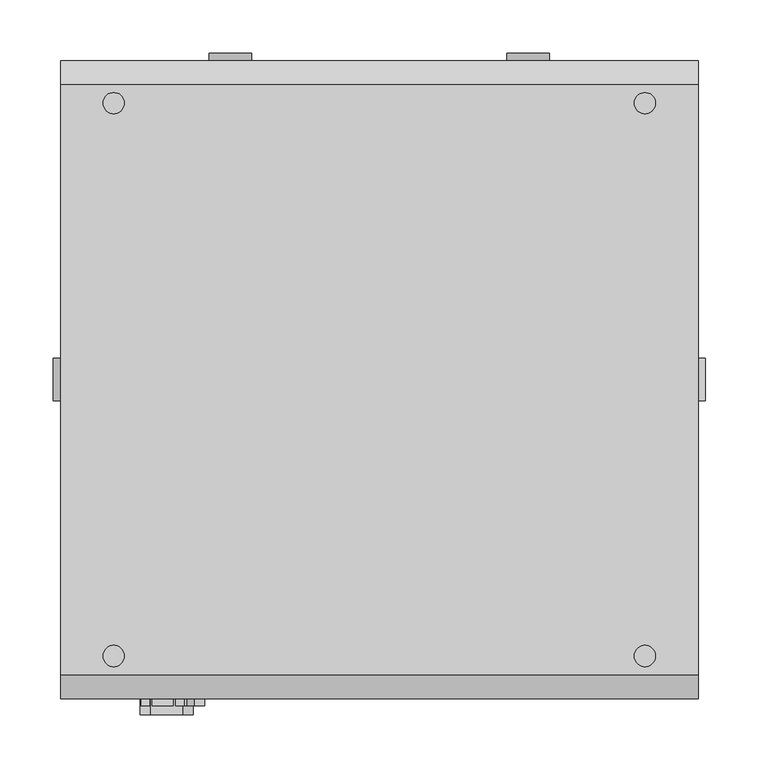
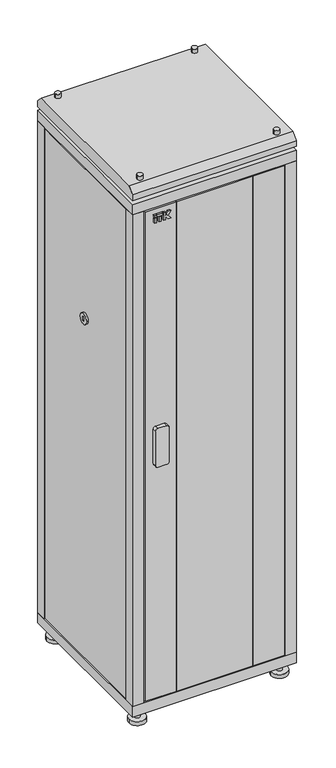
"""IFC4 building model written with IfcOpenShell, lengths in millimetres: proxy geometry, Шкафы ITK серия N_05 : LN05-42U66-G."""

from ifc_helpers import new_model, si_unit, point, frame, frame_2d, origin, origin_with_axes, place, context, project, spatial, polyline, circle_curve, trimmed, segment, composite_curve, outline, extrude, faceted_brep, source, transform, mapped, element, save
from ifc_brep_helpers import plane_surface, cylinder_surface, advanced_brep


def electrical_fixtures_48f60a17(model_context):
    return source(origin(), model_context, "Body", "SolidModel", [
        extrude(outline(polyline([(-215.9746193, -307.0), (-224.197592, -307.0), (-224.197592, -300.0), (-215.9746193, -300.0), (-215.9746193, -307.0)])), frame((0.0, 0.0, 1935.0), z_axis=(0.0, 0.0, 1.0), x_axis=(1.0, 0.0, 0.0)), (0.0, 0.0, 1.0), 18.8087618),
        extrude(outline(polyline([(-199.9605777, -307.0), (-207.7053315, -307.0), (-207.7053315, -300.0), (-199.9605777, -300.0), (-199.9605777, -307.0)])), frame((0.0, 0.0, 1935.0), z_axis=(0.0, 0.0, 1.0), x_axis=(1.0, 0.0, 0.0)), (0.0, 0.0, 1.0), 18.8087618),
        extrude(outline(polyline([(-215.9746193, -307.0), (-224.197592, -307.0), (-224.197592, -300.0), (-215.9746193, -300.0), (-215.9746193, -307.0)])), frame((0.0, 0.0, 1956.4305892), z_axis=(0.0, 0.0, 1.0), x_axis=(1.0, 0.0, 0.0)), (0.0, 0.0, 1.0), 7.9794747),
        extrude(outline(polyline([(1935.0, -191.5184175), (1935.0, -183.7669278), (1946.0271455, -183.7669278), (1946.0271455, -180.8031229), (1935.0, -173.6420108), (1935.0, -164.197592), (1949.7278745, -174.8980192), (1964.410064, -164.197592), (1964.410064, -173.6420108), (1953.3829184, -180.8031229), (1953.3829184, -183.7669278), (1964.410064, -183.7669278), (1964.410064, -191.5184175), (1935.0, -191.5184175)])), frame((0.0, -307.0, 0.0), z_axis=(0.0, 1.0, 0.0), x_axis=(0.0, 0.0, 1.0)), (0.0, 0.0, 1.0), 7.0),
        extrude(outline(polyline([(-194.0851324, -307.0), (-213.5807768, -307.0), (-213.5807768, -300.0), (-194.0851324, -300.0), (-194.0851324, -307.0)])), frame((0.0, 0.0, 1956.4305892), z_axis=(0.0, 0.0, 1.0), x_axis=(1.0, 0.0, 0.0)), (0.0, 0.0, 1.0), 7.9794747),
        extrude(outline(composite_curve([segment(polyline([(1145.0, -185.0), (1145.0, -215.0)]), True, "CONTINUOUS"), segment(trimmed(circle_curve(frame_2d((1135.0, -215.0)), 10.0), [point((1145.0, -215.0))], [point((1135.0, -225.0))], False, "CARTESIAN"), True, "CONTINUOUS"), segment(polyline([(1135.0, -225.0), (1005.0, -225.0)]), True, "CONTINUOUS"), segment(trimmed(circle_curve(frame_2d((1005.0, -215.0)), 10.0), [point((1005.0, -225.0))], [point((995.0, -215.0))], False, "CARTESIAN"), True, "CONTINUOUS"), segment(polyline([(995.0, -215.0), (995.0, -185.0)]), True, "CONTINUOUS"), segment(trimmed(circle_curve(frame_2d((1005.0, -185.0)), 10.0), [point((995.0, -185.0))], [point((1005.0, -175.0))], False, "CARTESIAN"), True, "CONTINUOUS"), segment(polyline([(1005.0, -175.0), (1135.0, -175.0)]), True, "CONTINUOUS"), segment(trimmed(circle_curve(frame_2d((1135.0, -185.0)), 10.0), [point((1135.0, -175.0))], [point((1145.0, -185.0))], False, "CARTESIAN"), True, "CONTINUOUS")], self_intersect=False)), frame((0.0, -315.0, 0.0), z_axis=(0.0, 1.0, 0.0), x_axis=(0.0, 0.0, 1.0)), (0.0, 0.0, 1.0), 15.0),
        extrude(outline(polyline([(140.0, -280.0), (140.0, -300.0), (-140.0, -300.0), (-140.0, -280.0), (140.0, -280.0)])), frame((0.0, 0.0, 95.0), z_axis=(0.0, 0.0, 1.0), x_axis=(1.0, 0.0, 0.0)), (0.0, 0.0, 1.0), 1890.0),
        extrude(outline(polyline([(255.0, -280.0), (255.0, -300.0), (140.0, -300.0), (140.0, -280.0), (235.0, -280.0), (235.0, -265.0), (245.0, -265.0), (245.0, -280.0), (255.0, -280.0)])), frame((0.0, 0.0, 95.0), z_axis=(0.0, 0.0, 1.0), x_axis=(1.0, 0.0, 0.0)), (0.0, 0.0, 1.0), 1890.0),
        extrude(outline(polyline([(-140.0, -300.0), (-255.0, -300.0), (-255.0, -280.0), (-245.0, -280.0), (-245.0, -265.0), (-235.0, -265.0), (-235.0, -280.0), (-140.0, -280.0), (-140.0, -300.0)])), frame((0.0, 0.0, 95.0), z_axis=(0.0, 0.0, 1.0), x_axis=(1.0, 0.0, 0.0)), (0.0, 0.0, 1.0), 1890.0),
        extrude(outline(composite_curve([segment(trimmed(circle_curve(frame_2d((-260.0, 260.0)), 10.0), [point((-250.0, 260.0))], [point((-270.0, 260.0))], False, "CARTESIAN"), True, "CONTINUOUS"), segment(trimmed(circle_curve(frame_2d((-260.0, 260.0)), 10.0), [point((-270.0, 260.0))], [point((-250.0, 260.0))], False, "CARTESIAN"), True, "CONTINUOUS")], self_intersect=False)), frame((0.0, 0.0, 15.0), z_axis=(0.0, 0.0, 1.0), x_axis=(1.0, 0.0, 0.0)), (0.0, 0.0, 1.0), 35.0),
        extrude(outline(composite_curve([segment(trimmed(circle_curve(frame_2d((260.0, 260.0)), 10.0), [point((270.0, 260.0))], [point((250.0, 260.0))], False, "CARTESIAN"), True, "CONTINUOUS"), segment(trimmed(circle_curve(frame_2d((260.0, 260.0)), 10.0), [point((250.0, 260.0))], [point((270.0, 260.0))], False, "CARTESIAN"), True, "CONTINUOUS")], self_intersect=False)), frame((0.0, 0.0, 15.0), z_axis=(0.0, 0.0, 1.0), x_axis=(1.0, 0.0, 0.0)), (0.0, 0.0, 1.0), 35.0),
        extrude(outline(composite_curve([segment(trimmed(circle_curve(frame_2d((-260.0, -260.0)), 10.0), [point((-250.0, -260.0))], [point((-270.0, -260.0))], False, "CARTESIAN"), True, "CONTINUOUS"), segment(trimmed(circle_curve(frame_2d((-260.0, -260.0)), 10.0), [point((-270.0, -260.0))], [point((-250.0, -260.0))], False, "CARTESIAN"), True, "CONTINUOUS")], self_intersect=False)), frame((0.0, 0.0, 15.0), z_axis=(0.0, 0.0, 1.0), x_axis=(1.0, 0.0, 0.0)), (0.0, 0.0, 1.0), 35.0),
        extrude(outline(composite_curve([segment(trimmed(circle_curve(frame_2d((260.0, -260.0)), 10.0), [point((270.0, -260.0))], [point((250.0, -260.0))], False, "CARTESIAN"), True, "CONTINUOUS"), segment(trimmed(circle_curve(frame_2d((260.0, -260.0)), 10.0), [point((250.0, -260.0))], [point((270.0, -260.0))], False, "CARTESIAN"), True, "CONTINUOUS")], self_intersect=False)), frame((0.0, 0.0, 15.0), z_axis=(0.0, 0.0, 1.0), x_axis=(1.0, 0.0, 0.0)), (0.0, 0.0, 1.0), 35.0),
        extrude(outline(composite_curve([segment(trimmed(circle_curve(frame_2d((-260.0, 260.0)), 30.0), [point((-230.0, 260.0))], [point((-290.0, 260.0))], False, "CARTESIAN"), True, "CONTINUOUS"), segment(trimmed(circle_curve(frame_2d((-260.0, 260.0)), 30.0), [point((-290.0, 260.0))], [point((-230.0, 260.0))], False, "CARTESIAN"), True, "CONTINUOUS")], self_intersect=False)), origin_with_axes(), (0.0, 0.0, 1.0), 15.0),
        extrude(outline(composite_curve([segment(trimmed(circle_curve(frame_2d((260.0, 260.0)), 30.0), [point((290.0, 260.0))], [point((230.0, 260.0))], False, "CARTESIAN"), True, "CONTINUOUS"), segment(trimmed(circle_curve(frame_2d((260.0, 260.0)), 30.0), [point((230.0, 260.0))], [point((290.0, 260.0))], False, "CARTESIAN"), True, "CONTINUOUS")], self_intersect=False)), origin_with_axes(), (0.0, 0.0, 1.0), 15.0),
        extrude(outline(composite_curve([segment(trimmed(circle_curve(frame_2d((-260.0, -260.0)), 30.0), [point((-230.0, -260.0))], [point((-290.0, -260.0))], False, "CARTESIAN"), True, "CONTINUOUS"), segment(trimmed(circle_curve(frame_2d((-260.0, -260.0)), 30.0), [point((-290.0, -260.0))], [point((-230.0, -260.0))], False, "CARTESIAN"), True, "CONTINUOUS")], self_intersect=False)), origin_with_axes(), (0.0, 0.0, 1.0), 15.0),
        extrude(outline(composite_curve([segment(trimmed(circle_curve(frame_2d((260.0, -260.0)), 30.0), [point((290.0, -260.0))], [point((230.0, -260.0))], False, "CARTESIAN"), True, "CONTINUOUS"), segment(trimmed(circle_curve(frame_2d((260.0, -260.0)), 30.0), [point((230.0, -260.0))], [point((290.0, -260.0))], False, "CARTESIAN"), True, "CONTINUOUS")], self_intersect=False)), origin_with_axes(), (0.0, 0.0, 1.0), 15.0),
        advanced_brep(
        [(260.0, 260.0, 2105.0), (240.0, 260.0, 2105.0), (260.0, -260.0, 2105.0), (240.0, -260.0, 2105.0), (-240.0, 260.0, 2105.0), (-260.0, 260.0, 2105.0), (-240.0, -260.0, 2105.0), (-260.0, -260.0, 2105.0), (260.0, 260.0, 2030.0), (240.0, 260.0, 2030.0), (260.0, -260.0, 2030.0), (240.0, -260.0, 2030.0), (-240.0, 260.0, 2030.0), (-260.0, 260.0, 2030.0), (-240.0, -260.0, 2030.0), (-260.0, -260.0, 2030.0), (260.0, 260.0, 2090.0), (240.0, 260.0, 2090.0), (240.0, 260.0, 2045.0), (260.0, 260.0, 2045.0), (260.0, -260.0, 2090.0), (240.0, -260.0, 2090.0), (240.0, -260.0, 2045.0), (260.0, -260.0, 2045.0), (-240.0, 260.0, 2090.0), (-260.0, 260.0, 2090.0), (-260.0, 260.0, 2045.0), (-240.0, 260.0, 2045.0), (-240.0, -260.0, 2090.0), (-260.0, -260.0, 2090.0), (-260.0, -260.0, 2045.0), (-240.0, -260.0, 2045.0), (300.0, 277.5, 2090.0), (300.0, -277.5, 2090.0), (300.0, -300.0, 2067.5), (300.0, -300.0, 2045.0), (300.0, 300.0, 2045.0), (300.0, 300.0, 2067.5), (-300.0, 277.5, 2090.0), (-300.0, 300.0, 2067.5), (-300.0, 300.0, 2045.0), (-300.0, -300.0, 2045.0), (-300.0, -300.0, 2067.5), (-300.0, -277.5, 2090.0)],
        [
            (0, 1, circle_curve(frame((250.0, 260.0, 2105.0), z_axis=(0.0, 0.0, 1.0), x_axis=(-1.0, 0.0, 0.0)), 10.0)),
            (1, 0, circle_curve(frame((250.0, 260.0, 2105.0), z_axis=(0.0, 0.0, 1.0), x_axis=(-1.0, 0.0, 0.0)), 10.0)),
            (2, 3, circle_curve(frame((250.0, -260.0, 2105.0), z_axis=(0.0, 0.0, 1.0), x_axis=(-1.0, 0.0, 0.0)), 10.0)),
            (3, 2, circle_curve(frame((250.0, -260.0, 2105.0), z_axis=(0.0, 0.0, 1.0), x_axis=(-1.0, 0.0, 0.0)), 10.0)),
            (4, 5, circle_curve(frame((-250.0, 260.0, 2105.0), z_axis=(0.0, 0.0, 1.0), x_axis=(-1.0, 0.0, 0.0)), 10.0)),
            (5, 4, circle_curve(frame((-250.0, 260.0, 2105.0), z_axis=(0.0, 0.0, 1.0), x_axis=(-1.0, 0.0, 0.0)), 10.0)),
            (6, 7, circle_curve(frame((-250.0, -260.0, 2105.0), z_axis=(0.0, 0.0, 1.0), x_axis=(-1.0, 0.0, 0.0)), 10.0)),
            (7, 6, circle_curve(frame((-250.0, -260.0, 2105.0), z_axis=(0.0, 0.0, 1.0), x_axis=(-1.0, 0.0, 0.0)), 10.0)),
            (8, 9, circle_curve(frame((250.0, 260.0, 2030.0), z_axis=(0.0, 0.0, -1.0), x_axis=(-1.0, 0.0, 0.0)), 10.0)),
            (9, 8, circle_curve(frame((250.0, 260.0, 2030.0), z_axis=(0.0, 0.0, -1.0), x_axis=(-1.0, 0.0, 0.0)), 10.0)),
            (10, 11, circle_curve(frame((250.0, -260.0, 2030.0), z_axis=(0.0, 0.0, -1.0), x_axis=(-1.0, 0.0, 0.0)), 10.0)),
            (11, 10, circle_curve(frame((250.0, -260.0, 2030.0), z_axis=(0.0, 0.0, -1.0), x_axis=(-1.0, 0.0, 0.0)), 10.0)),
            (12, 13, circle_curve(frame((-250.0, 260.0, 2030.0), z_axis=(0.0, 0.0, -1.0), x_axis=(-1.0, 0.0, 0.0)), 10.0)),
            (13, 12, circle_curve(frame((-250.0, 260.0, 2030.0), z_axis=(0.0, 0.0, -1.0), x_axis=(-1.0, 0.0, 0.0)), 10.0)),
            (14, 15, circle_curve(frame((-250.0, -260.0, 2030.0), z_axis=(0.0, 0.0, -1.0), x_axis=(-1.0, 0.0, 0.0)), 10.0)),
            (15, 14, circle_curve(frame((-250.0, -260.0, 2030.0), z_axis=(0.0, 0.0, -1.0), x_axis=(-1.0, 0.0, 0.0)), 10.0)),
            (0, 16),
            (16, 17, circle_curve(frame((250.0, 260.0, 2090.0), z_axis=(0.0, 0.0, 1.0), x_axis=(-1.0, 0.0, 0.0)), 10.0)),
            (17, 1),
            (9, 18),
            (18, 19, circle_curve(frame((250.0, 260.0, 2045.0), z_axis=(0.0, 0.0, -1.0), x_axis=(-1.0, 0.0, 0.0)), 10.0)),
            (19, 8),
            (17, 16, circle_curve(frame((250.0, 260.0, 2090.0), z_axis=(0.0, 0.0, 1.0), x_axis=(-1.0, 0.0, 0.0)), 10.0)),
            (19, 18, circle_curve(frame((250.0, 260.0, 2045.0), z_axis=(0.0, 0.0, -1.0), x_axis=(-1.0, 0.0, 0.0)), 10.0)),
            (2, 20),
            (20, 21, circle_curve(frame((250.0, -260.0, 2090.0), z_axis=(0.0, 0.0, 1.0), x_axis=(-1.0, 0.0, 0.0)), 10.0)),
            (21, 3),
            (11, 22),
            (22, 23, circle_curve(frame((250.0, -260.0, 2045.0), z_axis=(0.0, 0.0, -1.0), x_axis=(-1.0, 0.0, 0.0)), 10.0)),
            (23, 10),
            (21, 20, circle_curve(frame((250.0, -260.0, 2090.0), z_axis=(0.0, 0.0, 1.0), x_axis=(-1.0, 0.0, 0.0)), 10.0)),
            (23, 22, circle_curve(frame((250.0, -260.0, 2045.0), z_axis=(0.0, 0.0, -1.0), x_axis=(-1.0, 0.0, 0.0)), 10.0)),
            (4, 24),
            (24, 25, circle_curve(frame((-250.0, 260.0, 2090.0), z_axis=(0.0, 0.0, 1.0), x_axis=(-1.0, 0.0, 0.0)), 10.0)),
            (25, 5),
            (13, 26),
            (26, 27, circle_curve(frame((-250.0, 260.0, 2045.0), z_axis=(0.0, 0.0, -1.0), x_axis=(-1.0, 0.0, 0.0)), 10.0)),
            (27, 12),
            (25, 24, circle_curve(frame((-250.0, 260.0, 2090.0), z_axis=(0.0, 0.0, 1.0), x_axis=(-1.0, 0.0, 0.0)), 10.0)),
            (27, 26, circle_curve(frame((-250.0, 260.0, 2045.0), z_axis=(0.0, 0.0, -1.0), x_axis=(-1.0, 0.0, 0.0)), 10.0)),
            (6, 28),
            (28, 29, circle_curve(frame((-250.0, -260.0, 2090.0), z_axis=(0.0, 0.0, 1.0), x_axis=(-1.0, 0.0, 0.0)), 10.0)),
            (29, 7),
            (15, 30),
            (30, 31, circle_curve(frame((-250.0, -260.0, 2045.0), z_axis=(0.0, 0.0, -1.0), x_axis=(-1.0, 0.0, 0.0)), 10.0)),
            (31, 14),
            (29, 28, circle_curve(frame((-250.0, -260.0, 2090.0), z_axis=(0.0, 0.0, 1.0), x_axis=(-1.0, 0.0, 0.0)), 10.0)),
            (31, 30, circle_curve(frame((-250.0, -260.0, 2045.0), z_axis=(0.0, 0.0, -1.0), x_axis=(-1.0, 0.0, 0.0)), 10.0)),
            (32, 33),
            (33, 34),
            (34, 35),
            (35, 36),
            (36, 37),
            (37, 32),
            (38, 39),
            (39, 40),
            (40, 41),
            (41, 42),
            (42, 43),
            (43, 38),
            (32, 38),
            (43, 33),
            (42, 34),
            (41, 35),
            (40, 36),
            (39, 37),
        ],
        [
            plane_surface(frame((240.0, 260.0, 2105.0), z_axis=(0.0, 0.0, 1.0), x_axis=(0.0, -1.0, 0.0))),
            plane_surface(frame((240.0, 260.0, 2030.0), z_axis=(0.0, 0.0, -1.0), x_axis=(0.0, 1.0, 0.0))),
            cylinder_surface(frame((250.0, 260.0, 2030.0), z_axis=(0.0, 0.0, 1.0), x_axis=(-1.0, 0.0, 0.0)), 10.0),
            cylinder_surface(frame((250.0, -260.0, 1710.0), z_axis=(0.0, 0.0, 1.0), x_axis=(-1.0, 0.0, 0.0)), 10.0),
            cylinder_surface(frame((-250.0, 260.0, 1710.0), z_axis=(0.0, 0.0, 1.0), x_axis=(-1.0, 0.0, 0.0)), 10.0),
            cylinder_surface(frame((-250.0, -260.0, 1710.0), z_axis=(0.0, 0.0, 1.0), x_axis=(-1.0, 0.0, 0.0)), 10.0),
            plane_surface(frame((300.0, -277.5, 2090.0), z_axis=(1.0, 0.0, 0.0), x_axis=(0.0, -1.0, 0.0))),
            plane_surface(frame((-300.0, -277.5, 2090.0), z_axis=(-1.0, 0.0, 0.0), x_axis=(0.0, 1.0, 0.0))),
            plane_surface(frame((300.0, 277.5, 2090.0), z_axis=(0.0, 0.0, 1.0), x_axis=(-1.0, 0.0, 0.0))),
            plane_surface(frame((300.0, -277.5, 2090.0), z_axis=(0.0, -0.7071067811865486, 0.7071067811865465), x_axis=(-1.0, 0.0, 0.0))),
            plane_surface(frame((300.0, -300.0, 2067.5), z_axis=(0.0, -1.0, 0.0), x_axis=(-1.0, 0.0, 0.0))),
            plane_surface(frame((300.0, -300.0, 2045.0), z_axis=(0.0, 0.0, -1.0), x_axis=(-1.0, 0.0, 0.0))),
            plane_surface(frame((300.0, 300.0, 2045.0), z_axis=(0.0, 1.0, 0.0), x_axis=(-1.0, 0.0, 0.0))),
            plane_surface(frame((300.0, 300.0, 2067.5), z_axis=(0.0, 0.7071067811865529, 0.7071067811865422), x_axis=(-1.0, 0.0, 0.0))),
        ],
        [
            (0, [[1, 2]]),
            (0, [[3, 4]]),
            (0, [[5, 6]]),
            (0, [[7, 8]]),
            (1, [[9, 10]]),
            (1, [[11, 12]]),
            (1, [[13, 14]]),
            (1, [[15, 16]]),
            (2, [[-1, 17, 18, 19]]),
            (2, [[-10, 20, 21, 22]]),
            (2, [[-2, -19, 23, -17]]),
            (2, [[-9, -22, 24, -20]]),
            (3, [[-3, 25, 26, 27]]),
            (3, [[-12, 28, 29, 30]]),
            (3, [[-4, -27, 31, -25]]),
            (3, [[-11, -30, 32, -28]]),
            (4, [[-5, 33, 34, 35]]),
            (4, [[-14, 36, 37, 38]]),
            (4, [[-6, -35, 39, -33]]),
            (4, [[-13, -38, 40, -36]]),
            (5, [[-7, 41, 42, 43]]),
            (5, [[-16, 44, 45, 46]]),
            (5, [[-8, -43, 47, -41]]),
            (5, [[-15, -46, 48, -44]]),
            (6, [[49, 50, 51, 52, 53, 54]]),
            (7, [[55, 56, 57, 58, 59, 60]]),
            (8, [[-49, 61, -60, 62], [-18, -23], [-26, -31], [-34, -39], [-42, -47]]),
            (9, [[-50, -62, -59, 63]]),
            (10, [[-51, -63, -58, 64]]),
            (11, [[-52, -64, -57, 65], [-21, -24], [-29, -32], [-37, -40], [-45, -48]]),
            (12, [[-53, -65, -56, 66]]),
            (13, [[-54, -66, -55, -61]]),
        ],
    ),
        extrude(outline(polyline([(260.0, 260.0), (260.0, 245.0), (290.0, 245.0), (290.0, -245.0), (260.0, -245.0), (260.0, -260.0), (245.0, -260.0), (245.0, -280.0), (-245.0, -280.0), (-245.0, -260.0), (-260.0, -260.0), (-260.0, -245.0), (-290.0, -245.0), (-290.0, 245.0), (-260.0, 245.0), (-260.0, 260.0), (-245.0, 260.0), (-245.0, 290.0), (245.0, 290.0), (245.0, 260.0), (260.0, 260.0)])), frame((0.0, 0.0, 90.0), z_axis=(0.0, 0.0, 1.0), x_axis=(1.0, 0.0, 0.0)), (0.0, 0.0, 1.0), 5.0),
        extrude(outline(polyline([(260.0, 260.0), (260.0, 245.0), (290.0, 245.0), (290.0, -245.0), (260.0, -245.0), (260.0, -260.0), (245.0, -260.0), (245.0, -280.0), (-245.0, -280.0), (-245.0, -260.0), (-260.0, -260.0), (-260.0, -245.0), (-290.0, -245.0), (-290.0, 245.0), (-260.0, 245.0), (-260.0, 260.0), (-245.0, 260.0), (-245.0, 290.0), (245.0, 290.0), (245.0, 260.0), (260.0, 260.0)])), frame((0.0, 0.0, 1985.0), z_axis=(0.0, 0.0, 1.0), x_axis=(1.0, 0.0, 0.0)), (0.0, 0.0, 1.0), 5.0),
        extrude(outline(polyline([(300.0, -300.0), (-300.0, -300.0), (-300.0, 300.0), (300.0, 300.0), (300.0, -300.0)])), frame((0.0, 0.0, 1990.0), z_axis=(0.0, 0.0, 1.0), x_axis=(1.0, 0.0, 0.0)), (0.0, 0.0, 1.0), 40.0),
        extrude(outline(polyline([(300.0, -300.0), (-300.0, -300.0), (-300.0, 300.0), (300.0, 300.0), (300.0, -300.0)])), frame((0.0, 0.0, 50.0), z_axis=(0.0, 0.0, 1.0), x_axis=(1.0, 0.0, 0.0)), (0.0, 0.0, 1.0), 40.0),
        extrude(outline(composite_curve([segment(trimmed(circle_curve(frame_2d((1040.0, 140.0)), 20.0), [point((1040.0, 160.0))], [point((1040.0, 120.0))], False, "CARTESIAN"), True, "CONTINUOUS"), segment(trimmed(circle_curve(frame_2d((1040.0, 140.0)), 20.0), [point((1040.0, 120.0))], [point((1040.0, 160.0))], False, "CARTESIAN"), True, "CONTINUOUS")], self_intersect=False), holes=[polyline([(1031.7814397, 137.0), (1048.2185603, 137.0), (1048.2185603, 143.0), (1031.7814397, 143.0), (1031.7814397, 137.0)])]), frame((0.0, 300.0, 0.0), z_axis=(0.0, 1.0, 0.0), x_axis=(0.0, 0.0, 1.0)), (0.0, 0.0, 1.0), 7.0),
        extrude(outline(composite_curve([segment(trimmed(circle_curve(frame_2d((1040.0, -140.0)), 20.0), [point((1040.0, -120.0))], [point((1040.0, -160.0))], False, "CARTESIAN"), True, "CONTINUOUS"), segment(trimmed(circle_curve(frame_2d((1040.0, -140.0)), 20.0), [point((1040.0, -160.0))], [point((1040.0, -120.0))], False, "CARTESIAN"), True, "CONTINUOUS")], self_intersect=False), holes=[polyline([(1031.7814397, -143.0), (1048.2185603, -143.0), (1048.2185603, -137.0), (1031.7814397, -137.0), (1031.7814397, -143.0)])]), frame((0.0, 300.0, 0.0), z_axis=(0.0, 1.0, 0.0), x_axis=(0.0, 0.0, 1.0)), (0.0, 0.0, 1.0), 7.0),
        faceted_brep([(255.0, 300.0, 1985.0), (-255.0, 300.0, 1985.0), (-255.0, 270.0, 1985.0), (-245.0, 270.0, 1985.0), (-245.0, 290.0, 1985.0), (245.0, 290.0, 1985.0), (245.0, 270.0, 1985.0), (255.0, 270.0, 1985.0), (255.0, 300.0, 95.0), (255.0, 270.0, 95.0), (245.0, 270.0, 95.0), (245.0, 290.0, 95.0), (-245.0, 290.0, 95.0), (-245.0, 270.0, 95.0), (-255.0, 270.0, 95.0), (-255.0, 300.0, 95.0), (255.0, 300.0, 1812.5265979), (-255.0, 300.0, 1812.5265979), (175.0, 300.0, 1860.0), (175.0, 300.0, 1940.0), (-175.0, 300.0, 1940.0), (-175.0, 300.0, 1860.0), (-255.0, 300.0, 267.4734021), (255.0, 300.0, 267.4734021), (175.0, 300.0, 220.0), (-175.0, 300.0, 220.0), (-175.0, 300.0, 140.0), (175.0, 300.0, 140.0), (255.0, 300.0, 1807.4734021), (255.0, 300.0, 272.5265979), (-255.0, 300.0, 272.5265979), (-255.0, 300.0, 1807.4734021), (-170.0, 300.0, 215.0), (170.0, 300.0, 215.0), (170.0, 300.0, 145.0), (-170.0, 300.0, 145.0), (-170.0, 300.0, 1865.0), (-170.0, 300.0, 1935.0), (170.0, 300.0, 1935.0), (170.0, 300.0, 1865.0), (-255.0, 293.0, 1812.5265979), (-255.0, 293.0, 1807.4734021), (-255.0, 293.0, 272.5265979), (-255.0, 293.0, 267.4734021), (255.0, 293.0, 267.4734021), (255.0, 293.0, 272.5265979), (255.0, 293.0, 1807.4734021), (255.0, 293.0, 1812.5265979), (175.0, 293.0, 220.0), (175.0, 293.0, 140.0), (-175.0, 293.0, 140.0), (-175.0, 293.0, 220.0), (-170.0, 293.0, 215.0), (-170.0, 293.0, 145.0), (170.0, 293.0, 145.0), (170.0, 293.0, 215.0), (175.0, 293.0, 1860.0), (-175.0, 293.0, 1860.0), (-175.0, 293.0, 1940.0), (175.0, 293.0, 1940.0), (-170.0, 293.0, 1865.0), (170.0, 293.0, 1865.0), (170.0, 293.0, 1935.0), (-170.0, 293.0, 1935.0)], [[[0, 1, 2, 3, 4, 5, 6, 7]], [[8, 9, 10, 11, 12, 13, 14, 15]], [[1, 0, 16, 17], [18, 19, 20, 21]], [[8, 15, 22, 23], [24, 25, 26, 27]], [[28, 29, 30, 31]], [[32, 33, 34, 35]], [[36, 37, 38, 39]], [[2, 1, 17, 40, 41, 31, 30, 42, 43, 22, 15, 14]], [[3, 2, 14, 13]], [[4, 3, 13, 12]], [[5, 4, 12, 11]], [[6, 5, 11, 10]], [[7, 6, 10, 9]], [[0, 7, 9, 8, 23, 44, 45, 29, 28, 46, 47, 16]], [[44, 43, 42, 45]], [[48, 49, 50, 51], [52, 53, 54, 55]], [[46, 41, 40, 47]], [[56, 57, 58, 59], [60, 61, 62, 63]], [[45, 42, 30, 29]], [[43, 44, 23, 22]], [[48, 51, 25, 24]], [[51, 50, 26, 25]], [[50, 49, 27, 26]], [[49, 48, 24, 27]], [[52, 55, 33, 32]], [[55, 54, 34, 33]], [[54, 53, 35, 34]], [[53, 52, 32, 35]], [[47, 40, 17, 16]], [[41, 46, 28, 31]], [[56, 59, 19, 18]], [[59, 58, 20, 19]], [[58, 57, 21, 20]], [[57, 56, 18, 21]], [[60, 63, 37, 36]], [[63, 62, 38, 37]], [[62, 61, 39, 38]], [[61, 60, 36, 39]]]),
        extrude(outline(composite_curve([segment(trimmed(circle_curve(frame_2d((0.0, 1410.0)), 20.0), [point((-20.0, 1410.0))], [point((20.0, 1410.0))], False, "CARTESIAN"), True, "CONTINUOUS"), segment(trimmed(circle_curve(frame_2d((0.0, 1410.0)), 20.0), [point((20.0, 1410.0))], [point((-20.0, 1410.0))], False, "CARTESIAN"), True, "CONTINUOUS")], self_intersect=False), holes=[polyline([(3.0, 1401.7814397), (3.0, 1418.2185603), (-3.0, 1418.2185603), (-3.0, 1401.7814397), (3.0, 1401.7814397)])]), frame((300.0, 0.0, 0.0), z_axis=(1.0, 0.0, 0.0), x_axis=(0.0, 1.0, 0.0)), (0.0, 0.0, 1.0), 7.0),
        extrude(outline(composite_curve([segment(trimmed(circle_curve(frame_2d((0.0, 1410.0)), 20.0), [point((20.0, 1410.0))], [point((-20.0, 1410.0))], False, "CARTESIAN"), True, "CONTINUOUS"), segment(trimmed(circle_curve(frame_2d((0.0, 1410.0)), 20.0), [point((-20.0, 1410.0))], [point((20.0, 1410.0))], False, "CARTESIAN"), True, "CONTINUOUS")], self_intersect=False), holes=[polyline([(-3.0, 1401.7814397), (3.0, 1401.7814397), (3.0, 1418.2185603), (-3.0, 1418.2185603), (-3.0, 1401.7814397)])]), frame((-307.0, 0.0, 0.0), z_axis=(1.0, 0.0, 0.0), x_axis=(0.0, 1.0, 0.0)), (0.0, 0.0, 1.0), 7.0),
        extrude(outline(polyline([(-270.0, 255.0), (-270.0, 245.0), (-289.9803177, 245.0), (-289.9803177, -245.0), (-269.9803177, -245.0), (-269.9803177, -255.0), (-300.0, -255.0), (-300.0, 255.0), (-270.0, 255.0)])), frame((0.0, 0.0, 95.0), z_axis=(0.0, 0.0, 1.0), x_axis=(1.0, 0.0, 0.0)), (0.0, 0.0, 1.0), 1890.0),
        extrude(outline(polyline([(269.9803177, 255.0), (300.0, 255.0), (300.0, -255.0), (269.9803177, -255.0), (269.9803177, -245.0), (289.9803177, -245.0), (289.9803177, 245.0), (269.9803177, 245.0), (269.9803177, 255.0)])), frame((0.0, 0.0, 95.0), z_axis=(0.0, 0.0, 1.0), x_axis=(1.0, 0.0, 0.0)), (0.0, 0.0, 1.0), 1890.0),
        extrude(outline(polyline([(-270.0, -260.0), (-270.0, -245.0), (-260.0, -245.0), (-260.0, -260.0), (-245.0, -260.0), (-245.0, -280.0), (-260.0, -280.0), (-260.0, -300.0), (-300.0, -300.0), (-300.0, -260.0), (-270.0, -260.0)]), holes=[polyline([(-267.0, -263.0), (-297.0, -263.0), (-297.0, -297.0), (-263.0, -297.0), (-263.0, -277.0), (-248.0, -277.0), (-248.0, -263.0), (-263.0, -263.0), (-263.0, -248.0), (-267.0, -248.0), (-267.0, -263.0)])]), frame((0.0, 0.0, 90.0), z_axis=(0.0, 0.0, 1.0), x_axis=(1.0, 0.0, 0.0)), (0.0, 0.0, 1.0), 1900.0),
        extrude(outline(polyline([(270.0, -260.0), (300.0, -260.0), (300.0, -300.0), (260.0, -300.0), (260.0, -280.0), (245.0, -280.0), (245.0, -260.0), (260.0, -260.0), (260.0, -245.0), (270.0, -245.0), (270.0, -260.0)]), holes=[polyline([(297.0, -297.0), (297.0, -263.0), (267.0, -263.0), (267.0, -248.0), (263.0, -248.0), (263.0, -263.0), (248.0, -263.0), (248.0, -277.0), (263.0, -277.0), (263.0, -297.0), (297.0, -297.0)])]), frame((0.0, 0.0, 90.0), z_axis=(0.0, 0.0, 1.0), x_axis=(1.0, 0.0, 0.0)), (0.0, 0.0, 1.0), 1900.0),
        extrude(outline(polyline([(270.0, 260.0), (270.0, 245.0), (260.0, 245.0), (260.0, 260.0), (245.0, 260.0), (245.0, 270.0), (260.0, 270.0), (260.0, 300.0), (300.0, 300.0), (300.0, 260.0), (270.0, 260.0)]), holes=[polyline([(297.0, 263.0), (297.0, 297.0), (263.0, 297.0), (263.0, 267.0), (248.0, 267.0), (248.0, 263.0), (263.0, 263.0), (263.0, 248.0), (267.0, 248.0), (267.0, 263.0), (297.0, 263.0)])]), frame((0.0, 0.0, 90.0), z_axis=(0.0, 0.0, 1.0), x_axis=(1.0, 0.0, 0.0)), (0.0, 0.0, 1.0), 1900.0),
        extrude(outline(polyline([(-270.0, 260.0), (-300.0, 260.0), (-300.0, 300.0), (-260.0, 300.0), (-260.0, 270.0), (-245.0, 270.0), (-245.0, 260.0), (-260.0, 260.0), (-260.0, 245.0), (-270.0, 245.0), (-270.0, 260.0)]), holes=[polyline([(-297.0, 297.0), (-297.0, 263.0), (-267.0, 263.0), (-267.0, 248.0), (-263.0, 248.0), (-263.0, 263.0), (-248.0, 263.0), (-248.0, 267.0), (-263.0, 267.0), (-263.0, 297.0), (-297.0, 297.0)])]), frame((0.0, 0.0, 90.0), z_axis=(0.0, 0.0, 1.0), x_axis=(1.0, 0.0, 0.0)), (0.0, 0.0, 1.0), 1900.0),
    ])


if __name__ == "__main__":
    model = new_model("IFC4")
    model_context = context("Model", 3, world=origin())
    ifc_project = project(units=[si_unit("LENGTHUNIT", "METRE", prefix="MILLI")], contexts=[model_context])
    site = spatial("IfcSite", under=ifc_project)
    building = spatial("IfcBuilding", under=site)
    placement = place(None, origin())
    electrical_fixtures_shape = electrical_fixtures_48f60a17(model_context)
    element("IfcBuildingElementProxy", 1, Name="Шкафы ITK серия N_05 : LN05-42U66-G", ObjectType="Шкафы ITK серия N_05 : LN05-42U66-G", at=placement, inside=building, context=model_context, shape_type="MappedRepresentation", body=[
        mapped(electrical_fixtures_shape, transform((0.0, 0.0, 0.0), x_axis=(1.0, 0.0, 0.0), y_axis=(0.0, 1.0, 0.0), z_axis=(0.0, 0.0, 1.0))),
    ])
    save(model, "model.ifc")
